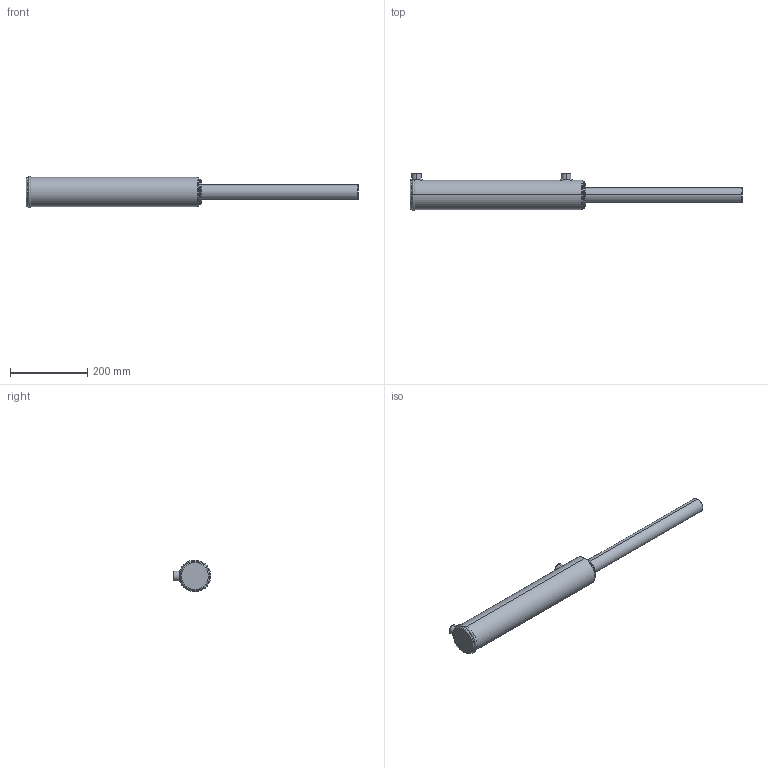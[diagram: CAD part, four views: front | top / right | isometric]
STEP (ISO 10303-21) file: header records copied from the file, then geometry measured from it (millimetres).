
FILE_DESCRIPTION (( 'STEP AP203' ), '1' );
FILE_NAME ('BL250150x355 (14) extended.STEP', '2014-11-25T01:25:15', ( '' ), ( '' ), 'SwSTEP 2.0', 'SolidWorks 2014', '' );
FILE_SCHEMA (( 'CONFIG_CONTROL_DESIGN' ));
Length unit declared in the file: millimetre
Products named in the file (3): Spare_2.5x14; BL250150x355 (14) extended; BL body 2.5_2.5x14
Assembly tree (2 placements, depth 2):
  BL250150x355 (14) extended
    BL body 2.5_2.5x14
    Spare_2.5x14
Bounding box: 861 x 97.2 x 82.2 mm (x, y, z)
Volume: 2313621.8 mm3; surface area: 210118 mm2
Topology: 2 solids, 2 shells, 88 faces, 205 edges, 126 vertices
Faces by surface type: cylinder 32, plane 20, torus 18, bspline 10, cone 8
Entity records: 5772 total; most frequent: CARTESIAN_POINT 3521, DIRECTION 422, ORIENTED_EDGE 402, EDGE_CURVE 201, AXIS2_PLACEMENT_3D 182, VERTEX_POINT 126, EDGE_LOOP 101, CIRCLE 99
